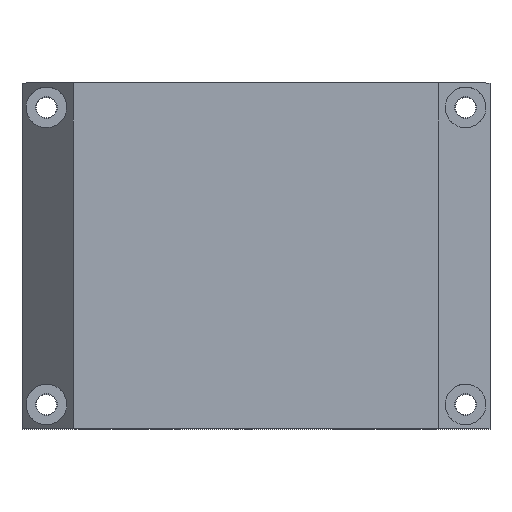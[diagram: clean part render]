
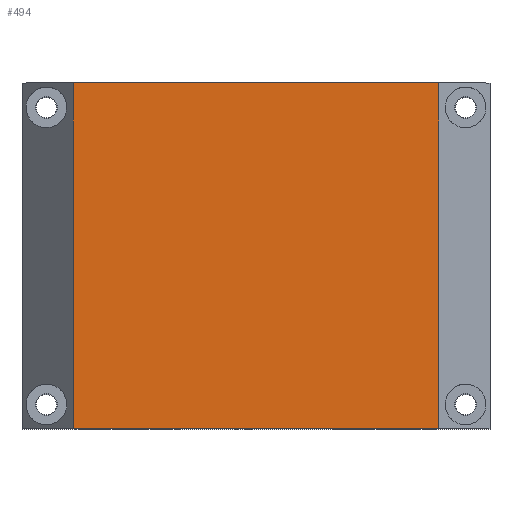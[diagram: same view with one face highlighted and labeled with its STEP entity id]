
A CAD part, top view. The second image highlights one B-rep face of the part: STEP entity #494.
In plain terms, the highlighted planar face has unit normal (0, 0, 1).
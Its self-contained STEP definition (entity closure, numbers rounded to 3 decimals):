
#28 = VECTOR ( 'NONE', #499, 1000. ) ;
#44 = EDGE_CURVE ( 'NONE', #889, #1796, #720, .T. ) ;
#70 = CARTESIAN_POINT ( 'NONE',  ( 44.914, -42.5, 20. ) ) ;
#162 = AXIS2_PLACEMENT_3D ( 'NONE', #1744, #350, #365 ) ;
#287 = VECTOR ( 'NONE', #1776, 1000. ) ;
#330 = EDGE_LOOP ( 'NONE', ( #1696, #1058, #1129, #1431 ) ) ;
#350 = DIRECTION ( 'NONE',  ( 0., 0., 1. ) ) ;
#351 = VECTOR ( 'NONE', #676, 1000. ) ;
#365 = DIRECTION ( 'NONE',  ( 1., 0., 0. ) ) ;
#378 = CARTESIAN_POINT ( 'NONE',  ( -44.914, -42.5, 20. ) ) ;
#383 = CARTESIAN_POINT ( 'NONE',  ( -44.914, 42.5, 20. ) ) ;
#421 = VERTEX_POINT ( 'NONE', #383 ) ;
#494 = ADVANCED_FACE ( 'NONE', ( #1170 ), #635, .T. ) ;
#499 = DIRECTION ( 'NONE',  ( 0., -1., 0. ) ) ;
#505 = EDGE_CURVE ( 'NONE', #421, #889, #921, .T. ) ;
#563 = LINE ( 'NONE', #1509, #287 ) ;
#635 = PLANE ( 'NONE',  #162 ) ;
#676 = DIRECTION ( 'NONE',  ( 1., 0., 0. ) ) ;
#700 = CARTESIAN_POINT ( 'NONE',  ( 44.914, 42.5, 20. ) ) ;
#720 = LINE ( 'NONE', #831, #351 ) ;
#807 = CARTESIAN_POINT ( 'NONE',  ( -44.914, -42.5, 20. ) ) ;
#831 = CARTESIAN_POINT ( 'NONE',  ( -57.5, -42.5, 20. ) ) ;
#889 = VERTEX_POINT ( 'NONE', #807 ) ;
#902 = DIRECTION ( 'NONE',  ( 0., 1., 0. ) ) ;
#921 = LINE ( 'NONE', #378, #28 ) ;
#1058 = ORIENTED_EDGE ( 'NONE', *, *, #505, .T. ) ;
#1127 = VECTOR ( 'NONE', #902, 1000. ) ;
#1129 = ORIENTED_EDGE ( 'NONE', *, *, #44, .T. ) ;
#1134 = EDGE_CURVE ( 'NONE', #1796, #1652, #1330, .T. ) ;
#1170 = FACE_OUTER_BOUND ( 'NONE', #330, .T. ) ;
#1320 = CARTESIAN_POINT ( 'NONE',  ( 44.914, 42.5, 20. ) ) ;
#1330 = LINE ( 'NONE', #1320, #1127 ) ;
#1431 = ORIENTED_EDGE ( 'NONE', *, *, #1134, .T. ) ;
#1454 = EDGE_CURVE ( 'NONE', #1652, #421, #563, .T. ) ;
#1509 = CARTESIAN_POINT ( 'NONE',  ( -57.5, 42.5, 20. ) ) ;
#1652 = VERTEX_POINT ( 'NONE', #700 ) ;
#1696 = ORIENTED_EDGE ( 'NONE', *, *, #1454, .T. ) ;
#1744 = CARTESIAN_POINT ( 'NONE',  ( 0., 0., 20. ) ) ;
#1776 = DIRECTION ( 'NONE',  ( -1., 0., 0. ) ) ;
#1796 = VERTEX_POINT ( 'NONE', #70 ) ;
